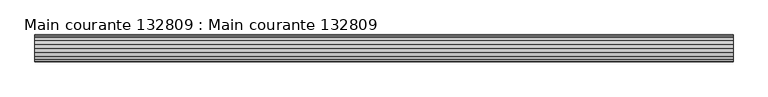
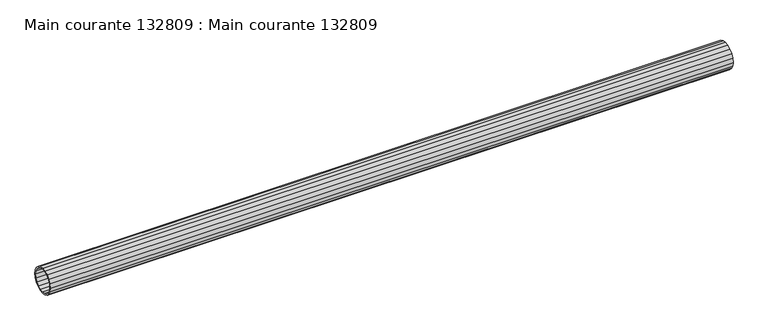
"""IFC4 building model written with IfcOpenShell, lengths in millimetres: beam geometry, Main courante 132809 : Main courante 132809."""

from ifc_helpers import new_model, si_unit, frame, origin, place, context, project, spatial, polyline, outline, extrude, source, transform, mapped, element, save


def main_courante_132809_main_courante_132809_a57e08fc(model_context):
    return source(origin(), model_context, "Body", "SweptSolid", [
        extrude(outline(polyline([(-14149.8127604, 8787.9680149), (-14142.35, 8789.15), (-14134.8872396, 8787.9680149), (-14128.1549862, 8784.5377604), (-14122.8122396, 8779.1950138), (-14119.3819851, 8772.4627604), (-14118.2, 8765.0), (-14119.3819851, 8757.5372396), (-14122.8122396, 8750.8049862), (-14128.1549862, 8745.4622396), (-14134.8872396, 8742.0319851), (-14142.35, 8740.85), (-14149.8127604, 8742.0319851), (-14156.5450138, 8745.4622396), (-14161.8877604, 8750.8049862), (-14165.3180149, 8757.5372396), (-14166.5, 8765.0), (-14165.3180149, 8772.4627604), (-14161.8877604, 8779.1950138), (-14156.5450138, 8784.5377604), (-14149.8127604, 8787.9680149)]), holes=[polyline([(-14121.7596264, 8771.6902179), (-14124.8347821, 8777.7255507), (-14129.6244493, 8782.5152179), (-14135.6597821, 8785.5903736), (-14142.35, 8786.65), (-14149.0402179, 8785.5903736), (-14155.0755507, 8782.5152179), (-14159.8652179, 8777.7255507), (-14162.9403736, 8771.6902179), (-14164.0, 8765.0), (-14162.9403736, 8758.3097821), (-14159.8652179, 8752.2744493), (-14155.0755507, 8747.4847821), (-14149.0402179, 8744.4096264), (-14142.35, 8743.35), (-14135.6597821, 8744.4096264), (-14129.6244493, 8747.4847821), (-14124.8347821, 8752.2744493), (-14121.7596264, 8758.3097821), (-14120.7, 8765.0), (-14121.7596264, 8771.6902179)])]), frame((7646.9999999, 0.0, 0.0), z_axis=(1.0, 0.0, 0.0), x_axis=(0.0, 1.0, 0.0)), (0.0, 0.0, 1.0), 1249.5),
    ])


if __name__ == "__main__":
    model = new_model("IFC4")
    model_context = context("Model", 3, world=origin())
    ifc_project = project(units=[si_unit("LENGTHUNIT", "METRE", prefix="MILLI")], contexts=[model_context])
    site = spatial("IfcSite", under=ifc_project)
    building = spatial("IfcBuilding", under=site)
    placement = place(None, origin())
    main_courante_132809_main_courante_132809_shape = main_courante_132809_main_courante_132809_a57e08fc(model_context)
    element("IfcBeam", 1, ObjectType="Main courante 132809 : Main courante 132809", at=placement, inside=building, context=model_context, shape_type="MappedRepresentation", body=[
        mapped(main_courante_132809_main_courante_132809_shape, transform((0.0, 0.0, 0.0), x_axis=(1.0, 0.0, 0.0), y_axis=(0.0, 1.0, 0.0), z_axis=(0.0, 0.0, 1.0))),
    ])
    save(model, "model.ifc")
